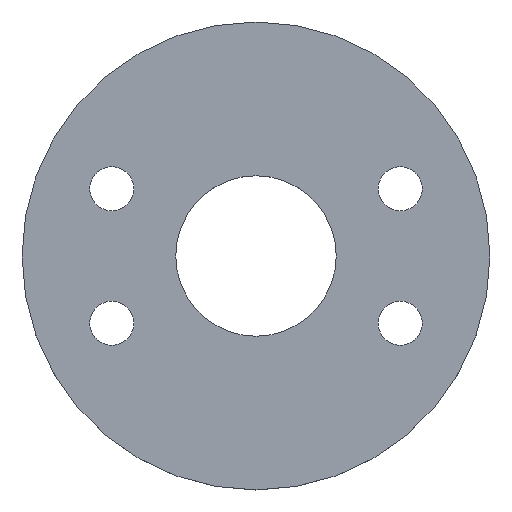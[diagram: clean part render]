
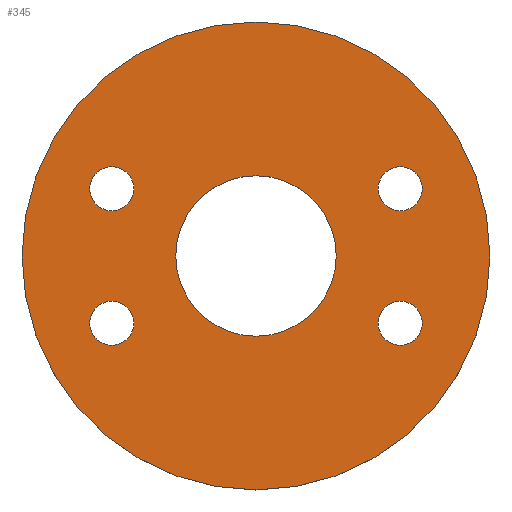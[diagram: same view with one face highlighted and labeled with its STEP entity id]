
A CAD part, top view. The second image highlights one B-rep face of the part: STEP entity #345.
In plain terms, the highlighted planar face has unit normal (0, 0, 1).
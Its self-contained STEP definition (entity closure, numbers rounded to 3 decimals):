
#1 = FACE_OUTER_BOUND ( 'NONE', #87, .T. ) ;
#2 = VERTEX_POINT ( 'NONE', #403 ) ;
#3 = ORIENTED_EDGE ( 'NONE', *, *, #201, .F. ) ;
#8 = EDGE_CURVE ( 'NONE', #56, #200, #113, .T. ) ;
#10 = AXIS2_PLACEMENT_3D ( 'NONE', #81, #160, #457 ) ;
#13 = AXIS2_PLACEMENT_3D ( 'NONE', #409, #418, #338 ) ;
#20 = CARTESIAN_POINT ( 'NONE',  ( -124.351, -50.292, 11. ) ) ;
#25 = EDGE_CURVE ( 'NONE', #93, #271, #202, .T. ) ;
#31 = EDGE_CURVE ( 'NONE', #455, #151, #181, .T. ) ;
#40 = CIRCLE ( 'NONE', #299, 16.5 ) ;
#49 = EDGE_CURVE ( 'NONE', #104, #190, #349, .T. ) ;
#52 = DIRECTION ( 'NONE',  ( 0., 0., 1. ) ) ;
#53 = DIRECTION ( 'NONE',  ( 0., 0., 1. ) ) ;
#54 = DIRECTION ( 'NONE',  ( 1., 0., 0. ) ) ;
#56 = VERTEX_POINT ( 'NONE', #364 ) ;
#60 = VERTEX_POINT ( 'NONE', #20 ) ;
#64 = ORIENTED_EDGE ( 'NONE', *, *, #114, .F. ) ;
#70 = CARTESIAN_POINT ( 'NONE',  ( -107.851, -50.292, 11. ) ) ;
#73 = DIRECTION ( 'NONE',  ( 0., 0., 1. ) ) ;
#74 = EDGE_CURVE ( 'NONE', #60, #2, #40, .T. ) ;
#81 = CARTESIAN_POINT ( 'NONE',  ( -107.851, 50.292, 11. ) ) ;
#87 = EDGE_LOOP ( 'NONE', ( #111, #525 ) ) ;
#89 = EDGE_LOOP ( 'NONE', ( #216, #389 ) ) ;
#90 = DIRECTION ( 'NONE',  ( 0., 0., 1. ) ) ;
#93 = VERTEX_POINT ( 'NONE', #532 ) ;
#95 = CARTESIAN_POINT ( 'NONE',  ( -107.851, -50.292, 11. ) ) ;
#104 = VERTEX_POINT ( 'NONE', #250 ) ;
#106 = DIRECTION ( 'NONE',  ( -1., 0., 0. ) ) ;
#111 = ORIENTED_EDGE ( 'NONE', *, *, #357, .T. ) ;
#113 = CIRCLE ( 'NONE', #218, 16.5 ) ;
#114 = EDGE_CURVE ( 'NONE', #271, #93, #465, .T. ) ;
#118 = EDGE_LOOP ( 'NONE', ( #544, #172 ) ) ;
#120 = DIRECTION ( 'NONE',  ( 1., 0., 0. ) ) ;
#124 = CARTESIAN_POINT ( 'NONE',  ( 91.351, -50.292, 11. ) ) ;
#130 = EDGE_LOOP ( 'NONE', ( #141, #64 ) ) ;
#134 = AXIS2_PLACEMENT_3D ( 'NONE', #329, #508, #477 ) ;
#141 = ORIENTED_EDGE ( 'NONE', *, *, #25, .F. ) ;
#151 = VERTEX_POINT ( 'NONE', #370 ) ;
#156 = CIRCLE ( 'NONE', #285, 175. ) ;
#160 = DIRECTION ( 'NONE',  ( 0., 0., 1. ) ) ;
#167 = CARTESIAN_POINT ( 'NONE',  ( -107.851, 50.292, 11. ) ) ;
#172 = ORIENTED_EDGE ( 'NONE', *, *, #344, .F. ) ;
#181 = CIRCLE ( 'NONE', #501, 16.5 ) ;
#190 = VERTEX_POINT ( 'NONE', #296 ) ;
#200 = VERTEX_POINT ( 'NONE', #214 ) ;
#201 = EDGE_CURVE ( 'NONE', #2, #60, #509, .T. ) ;
#202 = CIRCLE ( 'NONE', #134, 16.5 ) ;
#207 = EDGE_LOOP ( 'NONE', ( #266, #249 ) ) ;
#212 = DIRECTION ( 'NONE',  ( 1., 0., 0. ) ) ;
#214 = CARTESIAN_POINT ( 'NONE',  ( 91.351, 50.292, 11. ) ) ;
#216 = ORIENTED_EDGE ( 'NONE', *, *, #363, .F. ) ;
#218 = AXIS2_PLACEMENT_3D ( 'NONE', #360, #295, #212 ) ;
#234 = DIRECTION ( 'NONE',  ( -1., 0., 0. ) ) ;
#244 = CARTESIAN_POINT ( 'NONE',  ( 0., 0., 11. ) ) ;
#249 = ORIENTED_EDGE ( 'NONE', *, *, #386, .F. ) ;
#250 = CARTESIAN_POINT ( 'NONE',  ( 60., 0., 11. ) ) ;
#254 = DIRECTION ( 'NONE',  ( 1., 0., 0. ) ) ;
#257 = CARTESIAN_POINT ( 'NONE',  ( -175., 0., 11. ) ) ;
#259 = FACE_BOUND ( 'NONE', #118, .T. ) ;
#266 = ORIENTED_EDGE ( 'NONE', *, *, #31, .F. ) ;
#271 = VERTEX_POINT ( 'NONE', #124 ) ;
#272 = EDGE_LOOP ( 'NONE', ( #3, #499 ) ) ;
#275 = AXIS2_PLACEMENT_3D ( 'NONE', #95, #52, #311 ) ;
#278 = DIRECTION ( 'NONE',  ( 0., 0., 1. ) ) ;
#279 = FACE_BOUND ( 'NONE', #89, .T. ) ;
#285 = AXIS2_PLACEMENT_3D ( 'NONE', #244, #73, #254 ) ;
#287 = DIRECTION ( 'NONE',  ( 1., 0., 0. ) ) ;
#288 = DIRECTION ( 'NONE',  ( 0., 0., 1. ) ) ;
#290 = PLANE ( 'NONE',  #435 ) ;
#295 = DIRECTION ( 'NONE',  ( 0., 0., 1. ) ) ;
#296 = CARTESIAN_POINT ( 'NONE',  ( -60., 0., 11. ) ) ;
#299 = AXIS2_PLACEMENT_3D ( 'NONE', #70, #401, #54 ) ;
#302 = CIRCLE ( 'NONE', #406, 60. ) ;
#307 = EDGE_CURVE ( 'NONE', #394, #433, #156, .T. ) ;
#309 = CARTESIAN_POINT ( 'NONE',  ( -91.351, 50.292, 11. ) ) ;
#310 = AXIS2_PLACEMENT_3D ( 'NONE', #496, #288, #287 ) ;
#311 = DIRECTION ( 'NONE',  ( 1., 0., 0. ) ) ;
#318 = CIRCLE ( 'NONE', #10, 16.5 ) ;
#322 = CARTESIAN_POINT ( 'NONE',  ( 0., 0., 11. ) ) ;
#329 = CARTESIAN_POINT ( 'NONE',  ( 107.851, -50.292, 11. ) ) ;
#331 = FACE_BOUND ( 'NONE', #130, .T. ) ;
#336 = CARTESIAN_POINT ( 'NONE',  ( 175., 0., 11. ) ) ;
#338 = DIRECTION ( 'NONE',  ( 1., 0., 0. ) ) ;
#339 = CARTESIAN_POINT ( 'NONE',  ( 107.851, -50.292, 11. ) ) ;
#344 = EDGE_CURVE ( 'NONE', #200, #56, #432, .T. ) ;
#345 = ADVANCED_FACE ( 'NONE', ( #404, #361, #331, #259, #1, #279 ), #290, .T. ) ;
#349 = CIRCLE ( 'NONE', #13, 60. ) ;
#357 = EDGE_CURVE ( 'NONE', #433, #394, #446, .T. ) ;
#360 = CARTESIAN_POINT ( 'NONE',  ( 107.851, 50.292, 11. ) ) ;
#361 = FACE_BOUND ( 'NONE', #272, .T. ) ;
#363 = EDGE_CURVE ( 'NONE', #190, #104, #302, .T. ) ;
#364 = CARTESIAN_POINT ( 'NONE',  ( 124.351, 50.292, 11. ) ) ;
#370 = CARTESIAN_POINT ( 'NONE',  ( -124.351, 50.292, 11. ) ) ;
#377 = DIRECTION ( 'NONE',  ( 0., 0., 1. ) ) ;
#386 = EDGE_CURVE ( 'NONE', #151, #455, #318, .T. ) ;
#389 = ORIENTED_EDGE ( 'NONE', *, *, #49, .F. ) ;
#390 = AXIS2_PLACEMENT_3D ( 'NONE', #339, #377, #234 ) ;
#394 = VERTEX_POINT ( 'NONE', #336 ) ;
#401 = DIRECTION ( 'NONE',  ( 0., 0., 1. ) ) ;
#403 = CARTESIAN_POINT ( 'NONE',  ( -91.351, -50.292, 11. ) ) ;
#404 = FACE_BOUND ( 'NONE', #207, .T. ) ;
#406 = AXIS2_PLACEMENT_3D ( 'NONE', #322, #90, #488 ) ;
#409 = CARTESIAN_POINT ( 'NONE',  ( 0., 0., 11. ) ) ;
#418 = DIRECTION ( 'NONE',  ( 0., 0., 1. ) ) ;
#432 = CIRCLE ( 'NONE', #310, 16.5 ) ;
#433 = VERTEX_POINT ( 'NONE', #257 ) ;
#435 = AXIS2_PLACEMENT_3D ( 'NONE', #463, #278, #120 ) ;
#446 = CIRCLE ( 'NONE', #458, 175. ) ;
#455 = VERTEX_POINT ( 'NONE', #309 ) ;
#457 = DIRECTION ( 'NONE',  ( -1., 0., 0. ) ) ;
#458 = AXIS2_PLACEMENT_3D ( 'NONE', #487, #462, #510 ) ;
#462 = DIRECTION ( 'NONE',  ( 0., 0., 1. ) ) ;
#463 = CARTESIAN_POINT ( 'NONE',  ( 0., 0., 11. ) ) ;
#465 = CIRCLE ( 'NONE', #390, 16.5 ) ;
#477 = DIRECTION ( 'NONE',  ( -1., 0., 0. ) ) ;
#487 = CARTESIAN_POINT ( 'NONE',  ( 0., 0., 11. ) ) ;
#488 = DIRECTION ( 'NONE',  ( 1., 0., 0. ) ) ;
#496 = CARTESIAN_POINT ( 'NONE',  ( 107.851, 50.292, 11. ) ) ;
#499 = ORIENTED_EDGE ( 'NONE', *, *, #74, .F. ) ;
#501 = AXIS2_PLACEMENT_3D ( 'NONE', #167, #53, #106 ) ;
#508 = DIRECTION ( 'NONE',  ( 0., 0., 1. ) ) ;
#509 = CIRCLE ( 'NONE', #275, 16.5 ) ;
#510 = DIRECTION ( 'NONE',  ( 1., 0., 0. ) ) ;
#525 = ORIENTED_EDGE ( 'NONE', *, *, #307, .T. ) ;
#532 = CARTESIAN_POINT ( 'NONE',  ( 124.351, -50.292, 11. ) ) ;
#544 = ORIENTED_EDGE ( 'NONE', *, *, #8, .F. ) ;
